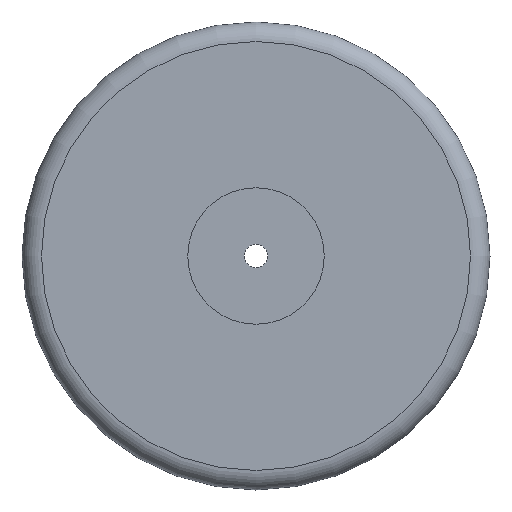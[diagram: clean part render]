
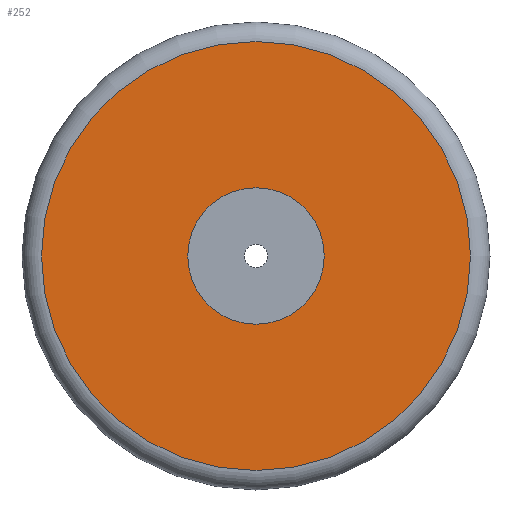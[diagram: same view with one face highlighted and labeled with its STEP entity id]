
A CAD part, front view. The second image highlights one B-rep face of the part: STEP entity #252.
In plain terms, the highlighted planar face has unit normal (0, -1, 0).
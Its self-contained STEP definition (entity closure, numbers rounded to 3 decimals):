
#66 = TOROIDAL_SURFACE('',#67,11.,1.);
#67 = AXIS2_PLACEMENT_3D('',#68,#69,#70);
#68 = CARTESIAN_POINT('',(20.,-92.,43.));
#69 = DIRECTION('',(0.,-1.,0.));
#70 = DIRECTION('',(1.,0.,0.));
#166 = VERTEX_POINT('',#167);
#167 = CARTESIAN_POINT('',(31.,-93.,43.));
#191 = EDGE_CURVE('',#166,#166,#192,.T.);
#192 = SURFACE_CURVE('',#193,(#198,#205),.PCURVE_S1.);
#193 = CIRCLE('',#194,11.);
#194 = AXIS2_PLACEMENT_3D('',#195,#196,#197);
#195 = CARTESIAN_POINT('',(20.,-93.,43.));
#196 = DIRECTION('',(0.,-1.,0.));
#197 = DIRECTION('',(1.,0.,0.));
#198 = PCURVE('',#66,#199);
#199 = DEFINITIONAL_REPRESENTATION('',(#200),#204);
#200 = LINE('',#201,#202);
#201 = CARTESIAN_POINT('',(0.,1.571));
#202 = VECTOR('',#203,1.);
#203 = DIRECTION('',(1.,0.));
#204 = ( GEOMETRIC_REPRESENTATION_CONTEXT(2) 
PARAMETRIC_REPRESENTATION_CONTEXT() REPRESENTATION_CONTEXT('2D SPACE',''
  ) );
#205 = PCURVE('',#206,#211);
#206 = PLANE('',#207);
#207 = AXIS2_PLACEMENT_3D('',#208,#209,#210);
#208 = CARTESIAN_POINT('',(20.,-93.,43.));
#209 = DIRECTION('',(0.,-1.,0.));
#210 = DIRECTION('',(1.,0.,0.));
#211 = DEFINITIONAL_REPRESENTATION('',(#212),#216);
#212 = CIRCLE('',#213,11.);
#213 = AXIS2_PLACEMENT_2D('',#214,#215);
#214 = CARTESIAN_POINT('',(0.,0.));
#215 = DIRECTION('',(1.,0.));
#216 = ( GEOMETRIC_REPRESENTATION_CONTEXT(2) 
PARAMETRIC_REPRESENTATION_CONTEXT() REPRESENTATION_CONTEXT('2D SPACE',''
  ) );
#252 = ADVANCED_FACE('',(#253,#256),#206,.T.);
#253 = FACE_BOUND('',#254,.T.);
#254 = EDGE_LOOP('',(#255));
#255 = ORIENTED_EDGE('',*,*,#191,.T.);
#256 = FACE_BOUND('',#257,.T.);
#257 = EDGE_LOOP('',(#258));
#258 = ORIENTED_EDGE('',*,*,#259,.F.);
#259 = EDGE_CURVE('',#260,#260,#262,.T.);
#260 = VERTEX_POINT('',#261);
#261 = CARTESIAN_POINT('',(23.5,-93.,43.));
#262 = SURFACE_CURVE('',#263,(#268,#275),.PCURVE_S1.);
#263 = CIRCLE('',#264,3.5);
#264 = AXIS2_PLACEMENT_3D('',#265,#266,#267);
#265 = CARTESIAN_POINT('',(20.,-93.,43.));
#266 = DIRECTION('',(0.,-1.,0.));
#267 = DIRECTION('',(1.,0.,0.));
#268 = PCURVE('',#206,#269);
#269 = DEFINITIONAL_REPRESENTATION('',(#270),#274);
#270 = CIRCLE('',#271,3.5);
#271 = AXIS2_PLACEMENT_2D('',#272,#273);
#272 = CARTESIAN_POINT('',(0.,0.));
#273 = DIRECTION('',(1.,0.));
#274 = ( GEOMETRIC_REPRESENTATION_CONTEXT(2) 
PARAMETRIC_REPRESENTATION_CONTEXT() REPRESENTATION_CONTEXT('2D SPACE',''
  ) );
#275 = PCURVE('',#276,#281);
#276 = CYLINDRICAL_SURFACE('',#277,3.5);
#277 = AXIS2_PLACEMENT_3D('',#278,#279,#280);
#278 = CARTESIAN_POINT('',(20.,-90.,43.));
#279 = DIRECTION('',(-0.,1.,0.));
#280 = DIRECTION('',(1.,0.,0.));
#281 = DEFINITIONAL_REPRESENTATION('',(#282),#286);
#282 = LINE('',#283,#284);
#283 = CARTESIAN_POINT('',(-0.,-3.));
#284 = VECTOR('',#285,1.);
#285 = DIRECTION('',(-1.,0.));
#286 = ( GEOMETRIC_REPRESENTATION_CONTEXT(2) 
PARAMETRIC_REPRESENTATION_CONTEXT() REPRESENTATION_CONTEXT('2D SPACE',''
  ) );
